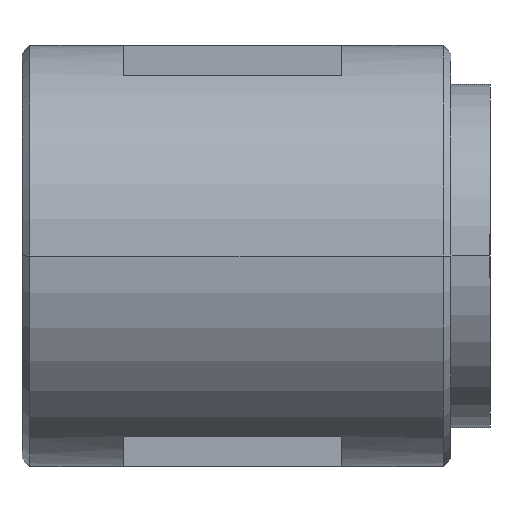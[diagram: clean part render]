
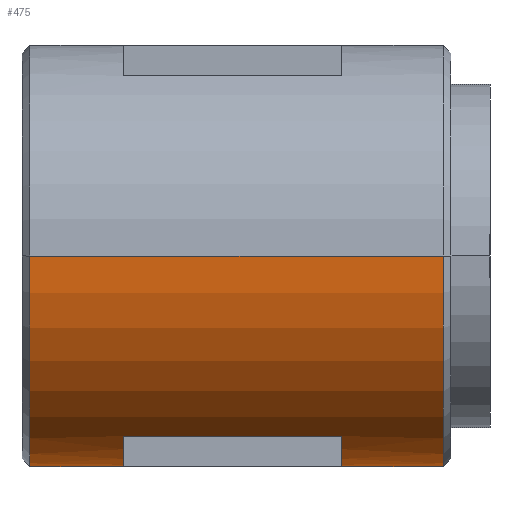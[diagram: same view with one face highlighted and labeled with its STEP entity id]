
A CAD part, left-side view. The second image highlights one B-rep face of the part: STEP entity #475.
In plain terms, the highlighted cylindrical face has radius 13.5 mm (diameter 27 mm), a partial arc.
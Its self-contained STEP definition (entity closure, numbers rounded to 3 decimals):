
#277=CARTESIAN_POINT('',(-13.5,9.25,0.));
#278=VERTEX_POINT('',#277);
#294=CARTESIAN_POINT('',(13.5,9.25,0.0));
#295=VERTEX_POINT('',#294);
#302=CARTESIAN_POINT('',(0.0,9.25,0.0));
#303=DIRECTION('',(0.0,1.0,0.0));
#304=DIRECTION('',(-1.0,0.0,0.0));
#305=AXIS2_PLACEMENT_3D('',#302,#303,#304);
#306=CIRCLE('',#305,13.5);
#307=EDGE_CURVE('',#295,#278,#306,.T.);
#354=CARTESIAN_POINT('',(0.0,-17.75,0.0));
#355=DIRECTION('',(0.0,1.0,0.0));
#356=DIRECTION('',(1.0,0.0,0.0));
#357=AXIS2_PLACEMENT_3D('',#354,#355,#356);
#358=CYLINDRICAL_SURFACE('',#357,13.5);
#359=CARTESIAN_POINT('',(13.5,-17.25,0.));
#360=VERTEX_POINT('',#359);
#361=CARTESIAN_POINT('',(13.5,-13.25,0.));
#362=VERTEX_POINT('',#361);
#363=CARTESIAN_POINT('',(13.5,-17.25,0.));
#364=DIRECTION('',(0.0,1.0,0.0));
#365=VECTOR('',#364,4.);
#366=LINE('',#363,#365);
#367=EDGE_CURVE('',#360,#362,#366,.T.);
#368=ORIENTED_EDGE('',*,*,#367,.F.);
#369=CARTESIAN_POINT('',(-13.5,-17.25,0.0));
#370=VERTEX_POINT('',#369);
#371=CARTESIAN_POINT('',(0.0,-17.25,0.0));
#372=DIRECTION('',(0.0,-1.0,0.0));
#373=DIRECTION('',(1.0,0.0,0.0));
#374=AXIS2_PLACEMENT_3D('',#371,#372,#373);
#375=CIRCLE('',#374,13.5);
#376=EDGE_CURVE('',#370,#360,#375,.T.);
#377=ORIENTED_EDGE('',*,*,#376,.F.);
#378=CARTESIAN_POINT('',(-13.5,9.25,0.));
#379=DIRECTION('',(0.0,-1.0,0.0));
#380=VECTOR('',#379,26.5);
#381=LINE('',#378,#380);
#382=EDGE_CURVE('',#278,#370,#381,.T.);
#383=ORIENTED_EDGE('',*,*,#382,.F.);
#384=ORIENTED_EDGE('',*,*,#307,.F.);
#385=CARTESIAN_POINT('',(13.5,5.75,0.));
#386=VERTEX_POINT('',#385);
#387=CARTESIAN_POINT('',(13.5,5.75,0.));
#388=DIRECTION('',(0.0,1.0,0.0));
#389=VECTOR('',#388,3.5);
#390=LINE('',#387,#389);
#391=EDGE_CURVE('',#386,#295,#390,.T.);
#392=ORIENTED_EDGE('',*,*,#391,.F.);
#393=CARTESIAN_POINT('',(10.199,-3.75,-8.845));
#394=VERTEX_POINT('',#393);
#395=CARTESIAN_POINT('',(13.5,5.75,0.));
#396=CARTESIAN_POINT('',(13.5,5.75,-1.005));
#397=CARTESIAN_POINT('',(13.383,5.562,-2.011));
#398=CARTESIAN_POINT('',(12.74,4.47,-4.892));
#399=CARTESIAN_POINT('',(11.903,3.051,-6.493));
#400=CARTESIAN_POINT('',(10.642,-0.231,-8.366));
#401=CARTESIAN_POINT('',(10.199,-1.969,-8.845));
#402=CARTESIAN_POINT('',(10.199,-3.75,-8.845));
#403=B_SPLINE_CURVE_WITH_KNOTS('',3,(#395,#396,#397,#398,#399,#400,#401,#402),.UNSPECIFIED.,.F.,.U.,(4,2,2,4),(39.795,42.591,48.451,53.062),.UNSPECIFIED.);
#404=EDGE_CURVE('',#394,#386,#403,.F.);
#405=ORIENTED_EDGE('',*,*,#404,.F.);
#406=CARTESIAN_POINT('',(10.199,-3.75,-8.845));
#407=CARTESIAN_POINT('',(10.199,-4.432,-8.845));
#408=CARTESIAN_POINT('',(10.26,-5.115,-8.776));
#409=CARTESIAN_POINT('',(10.549,-6.826,-8.428));
#410=CARTESIAN_POINT('',(10.851,-7.809,-8.054));
#411=CARTESIAN_POINT('',(11.695,-10.015,-6.804));
#412=CARTESIAN_POINT('',(12.28,-11.124,-5.767));
#413=CARTESIAN_POINT('',(13.197,-12.77,-3.175));
#414=CARTESIAN_POINT('',(13.5,-13.25,-1.59));
#415=CARTESIAN_POINT('',(13.5,-13.25,0.));
#416=B_SPLINE_CURVE_WITH_KNOTS('',3,(#406,#407,#408,#409,#410,#411,#412,#413,#414,#415),.UNSPECIFIED.,.F.,.U.,(4,2,2,2,4),(0.0,1.766,4.592,8.832,13.267),.UNSPECIFIED.);
#417=EDGE_CURVE('',#362,#394,#416,.F.);
#418=ORIENTED_EDGE('',*,*,#417,.F.);
#419=EDGE_LOOP('',(#368,#377,#383,#384,#392,#405,#418));
#420=FACE_OUTER_BOUND('',#419,.T.);
#421=CARTESIAN_POINT('',(7.,3.25,-11.543));
#422=VERTEX_POINT('',#421);
#423=CARTESIAN_POINT('',(0.0,3.25,-13.5));
#424=VERTEX_POINT('',#423);
#425=CARTESIAN_POINT('',(0.0,3.25,0.0));
#426=DIRECTION('',(0.0,1.0,0.0));
#427=DIRECTION('',(1.0,0.0,0.0));
#428=AXIS2_PLACEMENT_3D('',#425,#426,#427);
#429=CIRCLE('',#428,13.5);
#430=EDGE_CURVE('',#422,#424,#429,.T.);
#431=ORIENTED_EDGE('',*,*,#430,.T.);
#432=CARTESIAN_POINT('',(-7.,3.25,-11.543));
#433=VERTEX_POINT('',#432);
#434=CARTESIAN_POINT('',(0.0,3.25,0.0));
#435=DIRECTION('',(0.0,1.0,0.0));
#436=DIRECTION('',(1.0,0.0,0.0));
#437=AXIS2_PLACEMENT_3D('',#434,#435,#436);
#438=CIRCLE('',#437,13.5);
#439=EDGE_CURVE('',#424,#433,#438,.T.);
#440=ORIENTED_EDGE('',*,*,#439,.T.);
#441=CARTESIAN_POINT('',(-7.,-10.75,-11.543));
#442=VERTEX_POINT('',#441);
#443=CARTESIAN_POINT('',(-7.,3.25,-11.543));
#444=DIRECTION('',(0.0,-1.0,0.0));
#445=VECTOR('',#444,14.0);
#446=LINE('',#443,#445);
#447=EDGE_CURVE('',#433,#442,#446,.T.);
#448=ORIENTED_EDGE('',*,*,#447,.T.);
#449=CARTESIAN_POINT('',(0.0,-10.75,-13.5));
#450=VERTEX_POINT('',#449);
#451=CARTESIAN_POINT('',(0.0,-10.75,0.0));
#452=DIRECTION('',(0.0,-1.0,0.0));
#453=DIRECTION('',(1.0,0.0,0.0));
#454=AXIS2_PLACEMENT_3D('',#451,#452,#453);
#455=CIRCLE('',#454,13.5);
#456=EDGE_CURVE('',#442,#450,#455,.T.);
#457=ORIENTED_EDGE('',*,*,#456,.T.);
#458=CARTESIAN_POINT('',(7.,-10.75,-11.543));
#459=VERTEX_POINT('',#458);
#460=CARTESIAN_POINT('',(0.0,-10.75,0.0));
#461=DIRECTION('',(0.0,-1.0,0.0));
#462=DIRECTION('',(1.0,0.0,0.0));
#463=AXIS2_PLACEMENT_3D('',#460,#461,#462);
#464=CIRCLE('',#463,13.5);
#465=EDGE_CURVE('',#450,#459,#464,.T.);
#466=ORIENTED_EDGE('',*,*,#465,.T.);
#467=CARTESIAN_POINT('',(7.,-10.75,-11.543));
#468=DIRECTION('',(0.0,1.0,0.0));
#469=VECTOR('',#468,14.0);
#470=LINE('',#467,#469);
#471=EDGE_CURVE('',#459,#422,#470,.T.);
#472=ORIENTED_EDGE('',*,*,#471,.T.);
#473=EDGE_LOOP('',(#431,#440,#448,#457,#466,#472));
#474=FACE_BOUND('',#473,.T.);
#475=ADVANCED_FACE('',(#420,#474),#358,.T.);
